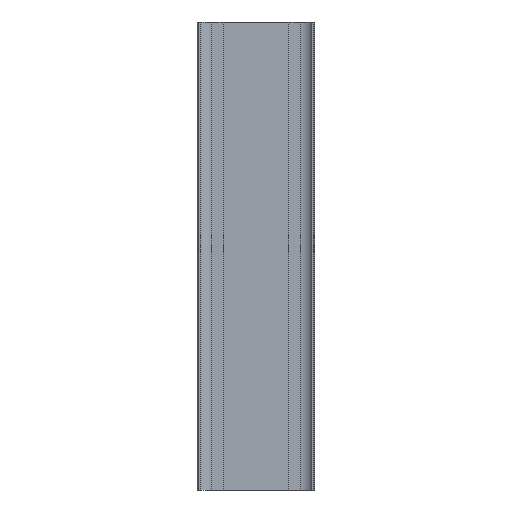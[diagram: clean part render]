
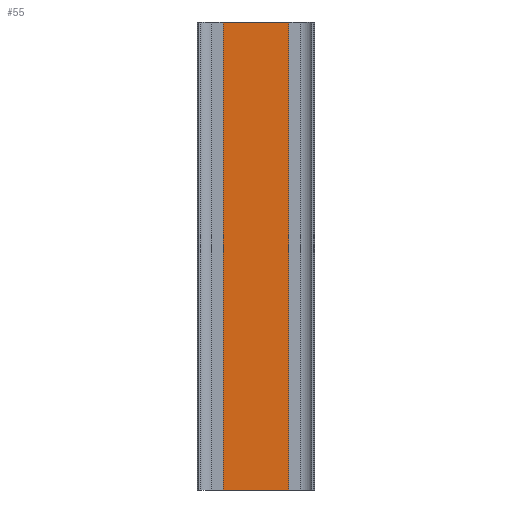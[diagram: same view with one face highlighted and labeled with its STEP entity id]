
A CAD part, front view. The second image highlights one B-rep face of the part: STEP entity #55.
In plain terms, the highlighted planar face has unit normal (0, -1, 0).
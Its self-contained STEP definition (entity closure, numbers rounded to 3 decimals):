
#20 = LINE ( 'NONE', #1134, #211 ) ;
#29 = PLANE ( 'NONE',  #367 ) ;
#40 = EDGE_CURVE ( 'NONE', #521, #94, #20, .T. ) ;
#55 = ADVANCED_FACE ( 'NONE', ( #464 ), #29, .F. ) ;
#94 = VERTEX_POINT ( 'NONE', #645 ) ;
#96 = VECTOR ( 'NONE', #784, 1000. ) ;
#107 = EDGE_CURVE ( 'NONE', #657, #116, #1194, .T. ) ;
#109 = EDGE_CURVE ( 'NONE', #116, #94, #666, .T. ) ;
#113 = DIRECTION ( 'NONE',  ( -1., 0., 0. ) ) ;
#116 = VERTEX_POINT ( 'NONE', #423 ) ;
#130 = ORIENTED_EDGE ( 'NONE', *, *, #107, .F. ) ;
#137 = CARTESIAN_POINT ( 'NONE',  ( -7., 12.7, 0. ) ) ;
#210 = DIRECTION ( 'NONE',  ( 0., 1., 0. ) ) ;
#211 = VECTOR ( 'NONE', #964, 1000. ) ;
#328 = CARTESIAN_POINT ( 'NONE',  ( 7., 12.7, 100. ) ) ;
#367 = AXIS2_PLACEMENT_3D ( 'NONE', #1141, #210, #113 ) ;
#399 = DIRECTION ( 'NONE',  ( -1., 0., 0. ) ) ;
#423 = CARTESIAN_POINT ( 'NONE',  ( -7., 12.7, 0. ) ) ;
#426 = CARTESIAN_POINT ( 'NONE',  ( -7., 12.7, 0. ) ) ;
#464 = FACE_OUTER_BOUND ( 'NONE', #508, .T. ) ;
#508 = EDGE_LOOP ( 'NONE', ( #698, #588, #130, #828 ) ) ;
#511 = EDGE_CURVE ( 'NONE', #657, #521, #667, .T. ) ;
#521 = VERTEX_POINT ( 'NONE', #328 ) ;
#524 = DIRECTION ( 'NONE',  ( 0., 0., 1. ) ) ;
#588 = ORIENTED_EDGE ( 'NONE', *, *, #109, .F. ) ;
#600 = CARTESIAN_POINT ( 'NONE',  ( 7., 12.7, 0. ) ) ;
#645 = CARTESIAN_POINT ( 'NONE',  ( -7., 12.7, 100. ) ) ;
#657 = VERTEX_POINT ( 'NONE', #1095 ) ;
#666 = LINE ( 'NONE', #426, #775 ) ;
#667 = LINE ( 'NONE', #600, #96 ) ;
#698 = ORIENTED_EDGE ( 'NONE', *, *, #40, .T. ) ;
#775 = VECTOR ( 'NONE', #524, 1000. ) ;
#784 = DIRECTION ( 'NONE',  ( 0., 0., 1. ) ) ;
#828 = ORIENTED_EDGE ( 'NONE', *, *, #511, .T. ) ;
#964 = DIRECTION ( 'NONE',  ( -1., 0., 0. ) ) ;
#1036 = VECTOR ( 'NONE', #399, 1000. ) ;
#1095 = CARTESIAN_POINT ( 'NONE',  ( 7., 12.7, 0. ) ) ;
#1134 = CARTESIAN_POINT ( 'NONE',  ( -7., 12.7, 100. ) ) ;
#1141 = CARTESIAN_POINT ( 'NONE',  ( -7., 12.7, 0. ) ) ;
#1194 = LINE ( 'NONE', #137, #1036 ) ;
